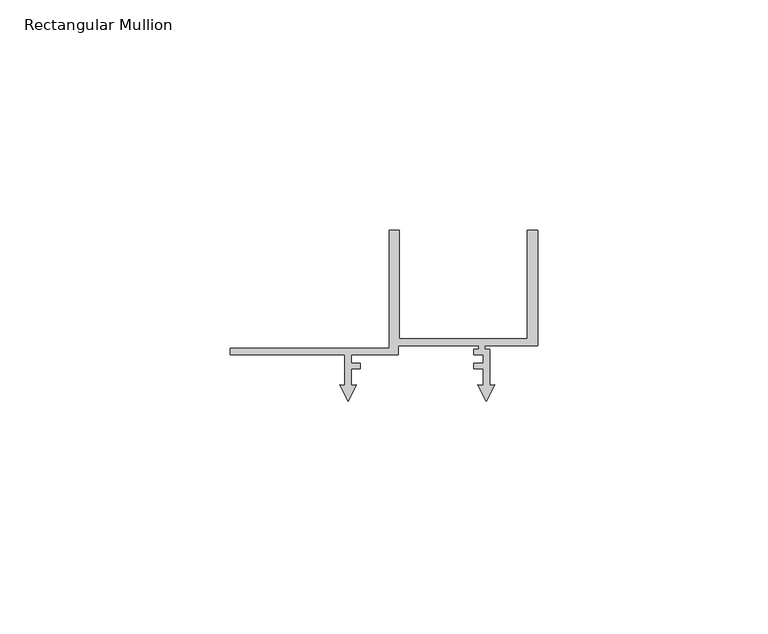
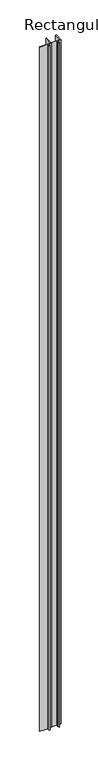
"""IFC4 building model written with IfcOpenShell, lengths in millimetres: member geometry, Rectangular Mullion : Renson_Linarte_LA-E25-01 Zone B."""

import ifcopenshell
import ifcopenshell.guid

model = None  # the IFC model being written
_history = None  # IfcOwnerHistory: only IFC2X3 demands one
_inside = {}  # id of a spatial element -> (the spatial element, [elements in it])
_under = {}  # id of a project, library or spatial element -> (it, [spatial elements below it])
_declared = {}  # id of a project -> (the project, [libraries it declares])
_typed = {}  # id of a type object -> (the type object, [elements of that type])
_made_of = {}  # id of a material, layer set ... -> (it, [elements and type objects made of it])


def new_model(schema):
    """Start an empty IFC model of exactly this schema.

    Asked for "IFC4X3", IfcOpenShell would pick the latest addendum, in which some entities
    have other attributes; the version numbers below select the first issue.
    IFC2X3 requires an IfcOwnerHistory on every rooted entity: one is made here for all.
    """
    global model, _history
    if schema == "IFC4X3":
        model = ifcopenshell.file(schema_version=(4, 3, 0, 0))
    else:
        model = ifcopenshell.file(schema=schema)
    _inside.clear()
    _under.clear()
    _declared.clear()
    _typed.clear()
    _made_of.clear()
    _history = None
    if model.schema == "IFC2X3":
        org = make("IfcOrganization", Name="unknown")
        user = make(
            "IfcPersonAndOrganization",
            ThePerson=make("IfcPerson", FamilyName="unknown"),
            TheOrganization=org,
        )
        app = make(
            "IfcApplication",
            ApplicationDeveloper=org,
            Version="unknown",
            ApplicationFullName="unknown",
            ApplicationIdentifier="unknown",
        )
        _history = make(
            "IfcOwnerHistory",
            OwningUser=user,
            OwningApplication=app,
            ChangeAction="ADDED",
            CreationDate=0,
        )
    return model


def make(cls, **values):
    """One entity of the class cls with the attributes given. An attribute that is None is left unset."""
    return model.create_entity(
        cls, **{name: value for name, value in values.items() if value is not None}
    )


def rooted(cls, **values):
    """An entity with a GlobalId (a new one), such as an element, a storey or a relation."""
    return make(cls, GlobalId=ifcopenshell.guid.new(), OwnerHistory=_history, **values)


def si_unit(unit_type, name, prefix=None):
    """IfcSIUnit, for example si_unit("LENGTHUNIT", "METRE", prefix="MILLI")."""
    return make("IfcSIUnit", UnitType=unit_type, Prefix=prefix, Name=name)


def assignment(units):
    """IfcUnitAssignment: the units of a project."""
    return None if units is None else make("IfcUnitAssignment", Units=units)


def point(xyz):
    """IfcCartesianPoint."""
    return None if xyz is None else make("IfcCartesianPoint", Coordinates=xyz)


def direction(xyz):
    """IfcDirection."""
    return None if xyz is None else make("IfcDirection", DirectionRatios=xyz)


def frame(location, z_axis=None, x_axis=None):
    """IfcAxis2Placement3D, a coordinate frame: its origin and axes. An axis left out is left unset."""
    return make(
        "IfcAxis2Placement3D",
        Location=point(location),
        Axis=direction(z_axis),
        RefDirection=direction(x_axis),
    )


def origin():
    """The frame at (0, 0, 0) with its axes left unset."""
    return frame((0.0, 0.0, 0.0))


def place(relative_to, where):
    """IfcLocalPlacement: puts the frame where relative to a parent placement (None: the world)."""
    return make(
        "IfcLocalPlacement", PlacementRelTo=relative_to, RelativePlacement=where
    )


def context(
    kind, dimensions, precision=None, world=None, true_north=None, identifier=None
):
    """IfcGeometricRepresentationContext, for example the 3D "Model" context."""
    return make(
        "IfcGeometricRepresentationContext",
        ContextIdentifier=identifier,
        ContextType=kind,
        CoordinateSpaceDimension=dimensions,
        Precision=precision,
        WorldCoordinateSystem=world,
        TrueNorth=true_north,
    )


def project(units=None, contexts=None):
    """IfcProject with its units and contexts."""
    return rooted(
        "IfcProject",
        Name="project",
        RepresentationContexts=contexts,
        UnitsInContext=assignment(units),
    )


def spatial(cls, under=None, at=None, **own):
    """A site, building, storey or space (cls), placed at a placement, below another one or the project."""
    s = rooted(cls, ObjectPlacement=at, **own)
    if under is not None:
        _under.setdefault(under.id(), (under, []))[1].append(s)
    return s


def polyline(points):
    """IfcPolyline through the points."""
    return make("IfcPolyline", Points=[point(p) for p in points])


def outline(outer, holes=None, kind="AREA"):
    """IfcArbitraryClosedProfileDef: a profile drawn as a closed curve; with holes, ...WithVoids."""
    if holes is None:
        return make("IfcArbitraryClosedProfileDef", ProfileType=kind, OuterCurve=outer)
    return make(
        "IfcArbitraryProfileDefWithVoids",
        ProfileType=kind,
        OuterCurve=outer,
        InnerCurves=holes,
    )


def extrude(swept, where, along, depth):
    """IfcExtrudedAreaSolid: the profile swept, set in the frame where, extruded along a direction by depth."""
    return make(
        "IfcExtrudedAreaSolid",
        SweptArea=swept,
        Position=where,
        ExtrudedDirection=direction(along),
        Depth=depth,
    )


def shape(context_of_items, identifier, shape_type, items):
    """IfcShapeRepresentation: the items that make up one representation, for example the "Body"."""
    return make(
        "IfcShapeRepresentation",
        ContextOfItems=context_of_items,
        RepresentationIdentifier=identifier,
        RepresentationType=shape_type,
        Items=items,
    )


def source(mapping_origin, context_of_items, identifier, shape_type, items):
    """IfcRepresentationMap: a shape defined once, which mapped items show again and again."""
    return make(
        "IfcRepresentationMap",
        MappingOrigin=mapping_origin,
        MappedRepresentation=shape(context_of_items, identifier, shape_type, items),
    )


def transform(
    local_origin,
    x_axis=None,
    y_axis=None,
    z_axis=None,
    scale=None,
    scale2=None,
    scale3=None,
    uniform=True,
):
    """IfcCartesianTransformationOperator3D, or its non-uniform kind. x_axis, y_axis, z_axis: its Axis1, 2, 3."""
    if uniform:
        return make(
            "IfcCartesianTransformationOperator3D",
            Axis1=direction(x_axis),
            Axis2=direction(y_axis),
            LocalOrigin=point(local_origin),
            Scale=scale,
            Axis3=direction(z_axis),
        )
    return make(
        "IfcCartesianTransformationOperator3DnonUniform",
        Axis1=direction(x_axis),
        Axis2=direction(y_axis),
        LocalOrigin=point(local_origin),
        Scale=scale,
        Axis3=direction(z_axis),
        Scale2=scale2,
        Scale3=scale3,
    )


def mapped(mapping_source, mapping_target):
    """IfcMappedItem: shows the shape of a source again, moved by a transform."""
    return make(
        "IfcMappedItem", MappingSource=mapping_source, MappingTarget=mapping_target
    )


def made_of(thing, what):
    """Note that an element or type object is made of a material, layer set ...; save() writes the relation."""
    if what is not None:
        _made_of.setdefault(what.id(), (what, []))[1].append(thing)
    return thing


def element(
    cls,
    number,
    at=None,
    inside=None,
    cuts=None,
    type_object=None,
    material=None,
    context=None,
    identifier="Body",
    shape_type=None,
    held_by="IfcProductDefinitionShape",
    body=None,
    shapes=None,
    **own,
):
    """One element of the class cls, such as IfcWall. Its Tag is "e" and its number.

    at: its placement. inside: the storey or other place that contains it. cuts: it is an
    opening in that element (IfcRelVoidsElement). A single representation is given by context,
    identifier, shape_type and body (its items); several are given by shapes. held_by: the class
    of the entity that holds the representations. save() writes the other relations.
    """
    e = rooted(cls, Tag="e%d" % number, ObjectPlacement=at, **own)
    if body is not None:
        shapes = [shape(context, identifier, shape_type, body)]
    if shapes is not None:
        e.Representation = make(held_by, Representations=shapes)
    if inside is not None:
        _inside.setdefault(inside.id(), (inside, []))[1].append(e)
    if cuts is not None:
        rooted(
            "IfcRelVoidsElement", RelatingBuildingElement=cuts, RelatedOpeningElement=e
        )
    if type_object is not None:
        _typed.setdefault(type_object.id(), (type_object, []))[1].append(e)
    return made_of(e, material)


def aggregate(whole, parts):
    """IfcRelAggregates: a whole, such as a stair, and the parts it consists of."""
    return rooted("IfcRelAggregates", RelatingObject=whole, RelatedObjects=parts)


def save(model, path):
    """Write the relations noted so far, then the file.

    IfcRelAggregates (storeys below a building ...), IfcRelContainedInSpatialStructure (elements
    in a storey), IfcRelDefinesByType, IfcRelAssociatesMaterial and IfcRelDeclares: one each for
    every whole, place, type object, material and project.
    """
    for whole, parts in _under.values():
        aggregate(whole, parts)
    for where, things in _inside.values():
        rooted(
            "IfcRelContainedInSpatialStructure",
            RelatedElements=things,
            RelatingStructure=where,
        )
    for kind, things in _typed.values():
        rooted("IfcRelDefinesByType", RelatedObjects=things, RelatingType=kind)
    for what, things in _made_of.values():
        rooted("IfcRelAssociatesMaterial", RelatedObjects=things, RelatingMaterial=what)
    for by, libraries in _declared.values():
        rooted("IfcRelDeclares", RelatingContext=by, RelatedDefinitions=libraries)
    model.write(path)


def rectangular_mullion_54812856(model_context):
    return source(origin(), model_context, "Body", "SweptSolid", [
        extrude(outline(polyline([(-66.6, 21.6000494), (-32.2, 21.6000494), (-32.2, 47.1000494), (-30.0, 47.1000494), (-30.0, 23.6000494), (-2.2, 23.6000494), (-2.2, 47.1000494), (0.0, 47.1000494), (0.0, 22.1000494), (-11.4, 22.1000494), (-11.4, 21.3015754), (-10.3999985, 21.3015754), (-10.3999985, 13.5038712), (-9.284262, 13.6014855), (-11.0999986, 10.037898), (-12.9157351, 13.6014855), (-11.7999987, 13.5038712), (-11.7999987, 17.0979618), (-13.7875618, 17.0979618), (-13.7875618, 18.3000494), (-11.8091794, 18.3000494), (-11.8091794, 20.1000494), (-13.7880766, 20.1000494), (-13.7880766, 21.3015754), (-12.8, 21.3015754), (-12.8, 22.1000494), (-30.1732051, 22.1000494), (-30.1732051, 20.1000494), (-40.3999995, 20.1000494), (-40.3999995, 18.3000494), (-38.4077357, 18.3000494), (-38.4077357, 17.099221), (-40.3999998, 17.099221), (-40.3999998, 13.5071867), (-39.2744672, 13.6056581), (-41.0999986, 10.0228474), (-42.9255299, 13.6056578), (-41.8, 13.5071867), (-41.8, 20.1000494), (-66.6, 20.1000494), (-66.6, 21.6000494)])), frame((0.0, 0.0, -2225.0), z_axis=(0.0, 0.0, 1.0), x_axis=(1.0, 0.0, 0.0)), (0.0, 0.0, 1.0), 2225.0),
    ])


if __name__ == "__main__":
    model = new_model("IFC4")
    model_context = context("Model", 3, world=origin())
    ifc_project = project(units=[si_unit("LENGTHUNIT", "METRE", prefix="MILLI")], contexts=[model_context])
    site = spatial("IfcSite", under=ifc_project)
    building = spatial("IfcBuilding", under=site)
    placement = place(None, origin())
    rectangular_mullion_shape = rectangular_mullion_54812856(model_context)
    element("IfcMember", 1, ObjectType="Rectangular Mullion : Renson_Linarte_LA-E25-01 Zone B", at=placement, inside=building, context=model_context, shape_type="MappedRepresentation", body=[
        mapped(rectangular_mullion_shape, transform((0.0, 0.0, 0.0), x_axis=(1.0, 0.0, 0.0), y_axis=(0.0, 1.0, 0.0), z_axis=(0.0, 0.0, 1.0))),
    ])
    save(model, "model.ifc")
